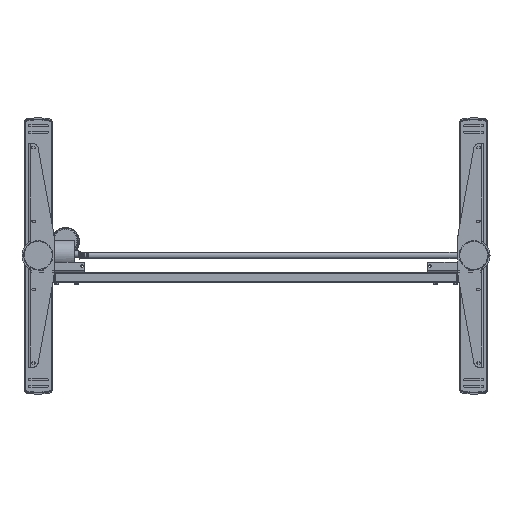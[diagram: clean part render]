
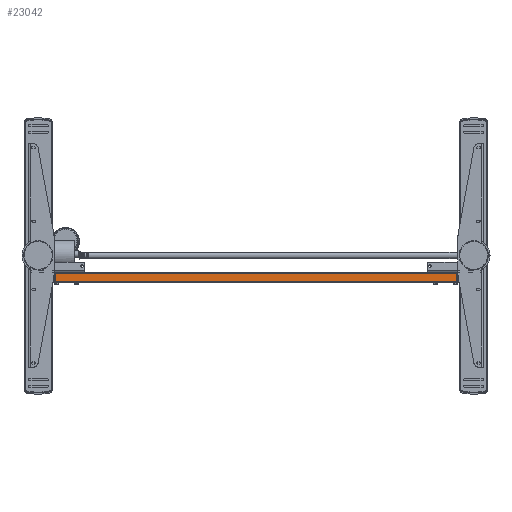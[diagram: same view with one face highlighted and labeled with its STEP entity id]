
A CAD part, top view. The second image highlights one B-rep face of the part: STEP entity #23042.
In plain terms, the highlighted planar face has unit normal (0, 0, 1) as drawn and (0, 1, 0) by its records, which use the part's own axes.
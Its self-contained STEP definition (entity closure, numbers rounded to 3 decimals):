
#1421 = CARTESIAN_POINT ( 'NONE',  ( -10.5, 25., 547. ) ) ;
#2672 = CARTESIAN_POINT ( 'NONE',  ( -10.5, 25., 494. ) ) ;
#3540 = CARTESIAN_POINT ( 'NONE',  ( 10.5, 25., -494. ) ) ;
#4330 = CARTESIAN_POINT ( 'NONE',  ( -10.5, 25., -494. ) ) ;
#4631 = AXIS2_PLACEMENT_3D ( 'NONE', #1421, #64420, #13185 ) ;
#10571 = EDGE_CURVE ( 'NONE', #54863, #33073, #44886, .T. ) ;
#11273 = EDGE_CURVE ( 'NONE', #47040, #33073, #67540, .T. ) ;
#13185 = DIRECTION ( 'NONE',  ( 0., 0., -1. ) ) ;
#15673 = VECTOR ( 'NONE', #36546, 1000. ) ;
#16818 = CARTESIAN_POINT ( 'NONE',  ( -12.5, 25., 494. ) ) ;
#19991 = PLANE ( 'NONE',  #4631 ) ;
#20140 = ORIENTED_EDGE ( 'NONE', *, *, #61500, .T. ) ;
#21727 = DIRECTION ( 'NONE',  ( 0., 0., -1. ) ) ;
#21970 = LINE ( 'NONE', #16818, #74306 ) ;
#23042 = ADVANCED_FACE ( 'NONE', ( #29210 ), #19991, .F. ) ;
#23538 = LINE ( 'NONE', #50079, #15673 ) ;
#23624 = CARTESIAN_POINT ( 'NONE',  ( -12.5, 25., -494. ) ) ;
#27826 = CARTESIAN_POINT ( 'NONE',  ( 10.5, 25., 547. ) ) ;
#29210 = FACE_OUTER_BOUND ( 'NONE', #38505, .T. ) ;
#33073 = VERTEX_POINT ( 'NONE', #3540 ) ;
#33218 = ORIENTED_EDGE ( 'NONE', *, *, #50949, .F. ) ;
#36546 = DIRECTION ( 'NONE',  ( 0., 0., -1. ) ) ;
#38505 = EDGE_LOOP ( 'NONE', ( #39940, #33218, #20140, #61652 ) ) ;
#39911 = VECTOR ( 'NONE', #79585, 1000. ) ;
#39940 = ORIENTED_EDGE ( 'NONE', *, *, #11273, .F. ) ;
#44886 = LINE ( 'NONE', #27826, #73555 ) ;
#47040 = VERTEX_POINT ( 'NONE', #4330 ) ;
#50079 = CARTESIAN_POINT ( 'NONE',  ( -10.5, 25., 547. ) ) ;
#50949 = EDGE_CURVE ( 'NONE', #77803, #47040, #23538, .T. ) ;
#54863 = VERTEX_POINT ( 'NONE', #67011 ) ;
#61194 = DIRECTION ( 'NONE',  ( 1., 0., 0. ) ) ;
#61500 = EDGE_CURVE ( 'NONE', #77803, #54863, #21970, .T. ) ;
#61652 = ORIENTED_EDGE ( 'NONE', *, *, #10571, .T. ) ;
#64420 = DIRECTION ( 'NONE',  ( 0., -1., 0. ) ) ;
#67011 = CARTESIAN_POINT ( 'NONE',  ( 10.5, 25., 494. ) ) ;
#67540 = LINE ( 'NONE', #23624, #39911 ) ;
#73555 = VECTOR ( 'NONE', #21727, 1000. ) ;
#74306 = VECTOR ( 'NONE', #61194, 1000. ) ;
#77803 = VERTEX_POINT ( 'NONE', #2672 ) ;
#79585 = DIRECTION ( 'NONE',  ( 1., 0., 0. ) ) ;
